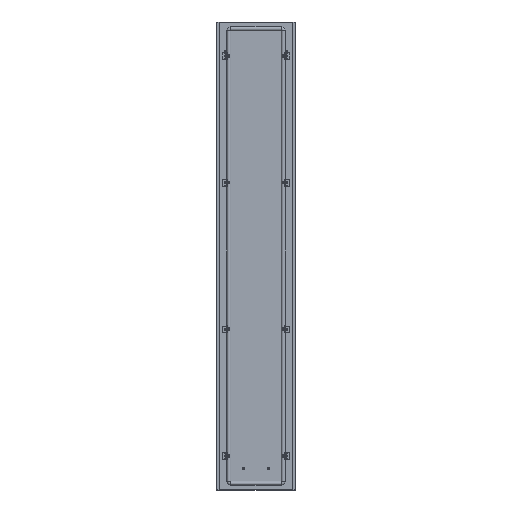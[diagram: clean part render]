
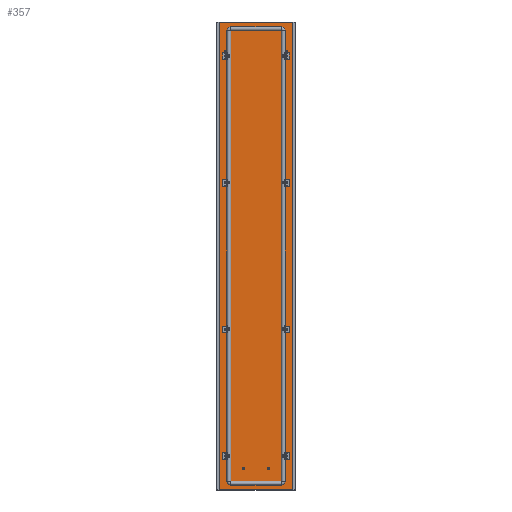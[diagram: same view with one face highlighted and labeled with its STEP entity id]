
A CAD part, top view. The second image highlights one B-rep face of the part: STEP entity #357.
In plain terms, the highlighted planar face has unit normal (0, 0, 1).
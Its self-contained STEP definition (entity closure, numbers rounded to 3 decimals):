
#357 = ADVANCED_FACE('',(#358,#456,#467,#478,#498,#518,#529,#540,#560),
  #580,.F.);
#358 = FACE_BOUND('',#359,.T.);
#359 = EDGE_LOOP('',(#360,#370,#378,#386,#394,#402,#410,#418,#426,#434,
    #442,#450));
#360 = ORIENTED_EDGE('',*,*,#361,.F.);
#361 = EDGE_CURVE('',#362,#364,#366,.T.);
#362 = VERTEX_POINT('',#363);
#363 = CARTESIAN_POINT('',(-145.5,877.5,0.));
#364 = VERTEX_POINT('',#365);
#365 = CARTESIAN_POINT('',(-145.3,877.5,0.));
#366 = LINE('',#367,#368);
#367 = CARTESIAN_POINT('',(0.,877.5,0.)
  );
#368 = VECTOR('',#369,1.);
#369 = DIRECTION('',(1.,0.,0.));
#370 = ORIENTED_EDGE('',*,*,#371,.T.);
#371 = EDGE_CURVE('',#362,#372,#374,.T.);
#372 = VERTEX_POINT('',#373);
#373 = CARTESIAN_POINT('',(-145.5,-877.5,0.));
#374 = LINE('',#375,#376);
#375 = CARTESIAN_POINT('',(-145.5,0.,0.
    ));
#376 = VECTOR('',#377,1.);
#377 = DIRECTION('',(0.,-1.,0.));
#378 = ORIENTED_EDGE('',*,*,#379,.T.);
#379 = EDGE_CURVE('',#372,#380,#382,.T.);
#380 = VERTEX_POINT('',#381);
#381 = CARTESIAN_POINT('',(-145.3,-877.5,0.));
#382 = LINE('',#383,#384);
#383 = CARTESIAN_POINT('',(0.,-877.5,
    0.));
#384 = VECTOR('',#385,1.);
#385 = DIRECTION('',(1.,-0.,-0.));
#386 = ORIENTED_EDGE('',*,*,#387,.F.);
#387 = EDGE_CURVE('',#388,#380,#390,.T.);
#388 = VERTEX_POINT('',#389);
#389 = CARTESIAN_POINT('',(-145.3,-876.,0.));
#390 = LINE('',#391,#392);
#391 = CARTESIAN_POINT('',(-145.3,0.,0.
    ));
#392 = VECTOR('',#393,1.);
#393 = DIRECTION('',(0.,-1.,0.));
#394 = ORIENTED_EDGE('',*,*,#395,.T.);
#395 = EDGE_CURVE('',#388,#396,#398,.T.);
#396 = VERTEX_POINT('',#397);
#397 = CARTESIAN_POINT('',(145.3,-876.,0.));
#398 = LINE('',#399,#400);
#399 = CARTESIAN_POINT('',(0.,-876.,0.
    ));
#400 = VECTOR('',#401,1.);
#401 = DIRECTION('',(1.,-0.,-0.));
#402 = ORIENTED_EDGE('',*,*,#403,.T.);
#403 = EDGE_CURVE('',#396,#404,#406,.T.);
#404 = VERTEX_POINT('',#405);
#405 = CARTESIAN_POINT('',(145.3,-877.5,0.));
#406 = LINE('',#407,#408);
#407 = CARTESIAN_POINT('',(145.3,-876.,0.));
#408 = VECTOR('',#409,1.);
#409 = DIRECTION('',(0.,-1.,0.));
#410 = ORIENTED_EDGE('',*,*,#411,.F.);
#411 = EDGE_CURVE('',#412,#404,#414,.T.);
#412 = VERTEX_POINT('',#413);
#413 = CARTESIAN_POINT('',(145.5,-877.5,0.));
#414 = LINE('',#415,#416);
#415 = CARTESIAN_POINT('',(0.,-877.5,0.
    ));
#416 = VECTOR('',#417,1.);
#417 = DIRECTION('',(-1.,0.,0.));
#418 = ORIENTED_EDGE('',*,*,#419,.T.);
#419 = EDGE_CURVE('',#412,#420,#422,.T.);
#420 = VERTEX_POINT('',#421);
#421 = CARTESIAN_POINT('',(145.5,877.5,0.));
#422 = LINE('',#423,#424);
#423 = CARTESIAN_POINT('',(145.5,0.,0.)
  );
#424 = VECTOR('',#425,1.);
#425 = DIRECTION('',(0.,1.,0.));
#426 = ORIENTED_EDGE('',*,*,#427,.T.);
#427 = EDGE_CURVE('',#420,#428,#430,.T.);
#428 = VERTEX_POINT('',#429);
#429 = CARTESIAN_POINT('',(145.3,877.5,0.));
#430 = LINE('',#431,#432);
#431 = CARTESIAN_POINT('',(0.,877.5,0.
    ));
#432 = VECTOR('',#433,1.);
#433 = DIRECTION('',(-1.,0.,0.));
#434 = ORIENTED_EDGE('',*,*,#435,.F.);
#435 = EDGE_CURVE('',#436,#428,#438,.T.);
#436 = VERTEX_POINT('',#437);
#437 = CARTESIAN_POINT('',(145.3,876.,0.));
#438 = LINE('',#439,#440);
#439 = CARTESIAN_POINT('',(145.3,0.,
    0.));
#440 = VECTOR('',#441,1.);
#441 = DIRECTION('',(0.,1.,0.));
#442 = ORIENTED_EDGE('',*,*,#443,.T.);
#443 = EDGE_CURVE('',#436,#444,#446,.T.);
#444 = VERTEX_POINT('',#445);
#445 = CARTESIAN_POINT('',(-145.3,876.,0.));
#446 = LINE('',#447,#448);
#447 = CARTESIAN_POINT('',(0.,876.,0.)
  );
#448 = VECTOR('',#449,1.);
#449 = DIRECTION('',(-1.,0.,0.));
#450 = ORIENTED_EDGE('',*,*,#451,.T.);
#451 = EDGE_CURVE('',#444,#364,#452,.T.);
#452 = LINE('',#453,#454);
#453 = CARTESIAN_POINT('',(-145.3,876.,0.));
#454 = VECTOR('',#455,1.);
#455 = DIRECTION('',(0.,1.,0.));
#456 = FACE_BOUND('',#457,.T.);
#457 = EDGE_LOOP('',(#458));
#458 = ORIENTED_EDGE('',*,*,#459,.T.);
#459 = EDGE_CURVE('',#460,#460,#462,.T.);
#460 = VERTEX_POINT('',#461);
#461 = CARTESIAN_POINT('',(-114.5,-270.25,0.));
#462 = CIRCLE('',#463,4.75);
#463 = AXIS2_PLACEMENT_3D('',#464,#465,#466);
#464 = CARTESIAN_POINT('',(-114.5,-275.,0.));
#465 = DIRECTION('',(0.,0.,-1.));
#466 = DIRECTION('',(0.,1.,0.));
#467 = FACE_BOUND('',#468,.T.);
#468 = EDGE_LOOP('',(#469));
#469 = ORIENTED_EDGE('',*,*,#470,.T.);
#470 = EDGE_CURVE('',#471,#471,#473,.T.);
#471 = VERTEX_POINT('',#472);
#472 = CARTESIAN_POINT('',(114.5,-279.75,0.));
#473 = CIRCLE('',#474,4.75);
#474 = AXIS2_PLACEMENT_3D('',#475,#476,#477);
#475 = CARTESIAN_POINT('',(114.5,-275.,0.));
#476 = DIRECTION('',(-0.,0.,-1.));
#477 = DIRECTION('',(0.,-1.,0.));
#478 = FACE_BOUND('',#479,.T.);
#479 = EDGE_LOOP('',(#480,#491));
#480 = ORIENTED_EDGE('',*,*,#481,.F.);
#481 = EDGE_CURVE('',#482,#484,#486,.T.);
#482 = VERTEX_POINT('',#483);
#483 = CARTESIAN_POINT('',(-114.5,754.75,0.));
#484 = VERTEX_POINT('',#485);
#485 = CARTESIAN_POINT('',(-114.5,745.25,0.));
#486 = CIRCLE('',#487,4.75);
#487 = AXIS2_PLACEMENT_3D('',#488,#489,#490);
#488 = CARTESIAN_POINT('',(-114.5,750.,0.));
#489 = DIRECTION('',(0.,0.,1.));
#490 = DIRECTION('',(0.,1.,0.));
#491 = ORIENTED_EDGE('',*,*,#492,.F.);
#492 = EDGE_CURVE('',#484,#482,#493,.T.);
#493 = CIRCLE('',#494,4.75);
#494 = AXIS2_PLACEMENT_3D('',#495,#496,#497);
#495 = CARTESIAN_POINT('',(-114.5,750.,0.));
#496 = DIRECTION('',(0.,0.,1.));
#497 = DIRECTION('',(0.,1.,0.));
#498 = FACE_BOUND('',#499,.T.);
#499 = EDGE_LOOP('',(#500,#511));
#500 = ORIENTED_EDGE('',*,*,#501,.F.);
#501 = EDGE_CURVE('',#502,#504,#506,.T.);
#502 = VERTEX_POINT('',#503);
#503 = CARTESIAN_POINT('',(114.5,745.25,0.));
#504 = VERTEX_POINT('',#505);
#505 = CARTESIAN_POINT('',(114.5,754.75,0.));
#506 = CIRCLE('',#507,4.75);
#507 = AXIS2_PLACEMENT_3D('',#508,#509,#510);
#508 = CARTESIAN_POINT('',(114.5,750.,0.));
#509 = DIRECTION('',(0.,0.,1.));
#510 = DIRECTION('',(0.,-1.,0.));
#511 = ORIENTED_EDGE('',*,*,#512,.F.);
#512 = EDGE_CURVE('',#504,#502,#513,.T.);
#513 = CIRCLE('',#514,4.75);
#514 = AXIS2_PLACEMENT_3D('',#515,#516,#517);
#515 = CARTESIAN_POINT('',(114.5,750.,0.));
#516 = DIRECTION('',(0.,0.,1.));
#517 = DIRECTION('',(0.,-1.,0.));
#518 = FACE_BOUND('',#519,.T.);
#519 = EDGE_LOOP('',(#520));
#520 = ORIENTED_EDGE('',*,*,#521,.T.);
#521 = EDGE_CURVE('',#522,#522,#524,.T.);
#522 = VERTEX_POINT('',#523);
#523 = CARTESIAN_POINT('',(-114.5,-745.25,0.));
#524 = CIRCLE('',#525,4.75);
#525 = AXIS2_PLACEMENT_3D('',#526,#527,#528);
#526 = CARTESIAN_POINT('',(-114.5,-750.,0.));
#527 = DIRECTION('',(0.,0.,-1.));
#528 = DIRECTION('',(0.,1.,0.));
#529 = FACE_BOUND('',#530,.T.);
#530 = EDGE_LOOP('',(#531));
#531 = ORIENTED_EDGE('',*,*,#532,.T.);
#532 = EDGE_CURVE('',#533,#533,#535,.T.);
#533 = VERTEX_POINT('',#534);
#534 = CARTESIAN_POINT('',(114.5,-754.75,0.));
#535 = CIRCLE('',#536,4.75);
#536 = AXIS2_PLACEMENT_3D('',#537,#538,#539);
#537 = CARTESIAN_POINT('',(114.5,-750.,0.));
#538 = DIRECTION('',(-0.,0.,-1.));
#539 = DIRECTION('',(0.,-1.,0.));
#540 = FACE_BOUND('',#541,.T.);
#541 = EDGE_LOOP('',(#542,#553));
#542 = ORIENTED_EDGE('',*,*,#543,.F.);
#543 = EDGE_CURVE('',#544,#546,#548,.T.);
#544 = VERTEX_POINT('',#545);
#545 = CARTESIAN_POINT('',(114.5,270.25,0.));
#546 = VERTEX_POINT('',#547);
#547 = CARTESIAN_POINT('',(114.5,279.75,0.));
#548 = CIRCLE('',#549,4.75);
#549 = AXIS2_PLACEMENT_3D('',#550,#551,#552);
#550 = CARTESIAN_POINT('',(114.5,275.,0.));
#551 = DIRECTION('',(0.,0.,1.));
#552 = DIRECTION('',(0.,-1.,0.));
#553 = ORIENTED_EDGE('',*,*,#554,.F.);
#554 = EDGE_CURVE('',#546,#544,#555,.T.);
#555 = CIRCLE('',#556,4.75);
#556 = AXIS2_PLACEMENT_3D('',#557,#558,#559);
#557 = CARTESIAN_POINT('',(114.5,275.,0.));
#558 = DIRECTION('',(0.,0.,1.));
#559 = DIRECTION('',(0.,-1.,0.));
#560 = FACE_BOUND('',#561,.T.);
#561 = EDGE_LOOP('',(#562,#573));
#562 = ORIENTED_EDGE('',*,*,#563,.F.);
#563 = EDGE_CURVE('',#564,#566,#568,.T.);
#564 = VERTEX_POINT('',#565);
#565 = CARTESIAN_POINT('',(-114.5,279.75,0.));
#566 = VERTEX_POINT('',#567);
#567 = CARTESIAN_POINT('',(-114.5,270.25,0.));
#568 = CIRCLE('',#569,4.75);
#569 = AXIS2_PLACEMENT_3D('',#570,#571,#572);
#570 = CARTESIAN_POINT('',(-114.5,275.,0.));
#571 = DIRECTION('',(0.,0.,1.));
#572 = DIRECTION('',(0.,1.,0.));
#573 = ORIENTED_EDGE('',*,*,#574,.F.);
#574 = EDGE_CURVE('',#566,#564,#575,.T.);
#575 = CIRCLE('',#576,4.75);
#576 = AXIS2_PLACEMENT_3D('',#577,#578,#579);
#577 = CARTESIAN_POINT('',(-114.5,275.,0.));
#578 = DIRECTION('',(0.,0.,1.));
#579 = DIRECTION('',(0.,1.,0.));
#580 = PLANE('',#581);
#581 = AXIS2_PLACEMENT_3D('',#582,#583,#584);
#582 = CARTESIAN_POINT('',(0.,0.,
    0.));
#583 = DIRECTION('',(0.,0.,-1.));
#584 = DIRECTION('',(-1.,0.,0.));
